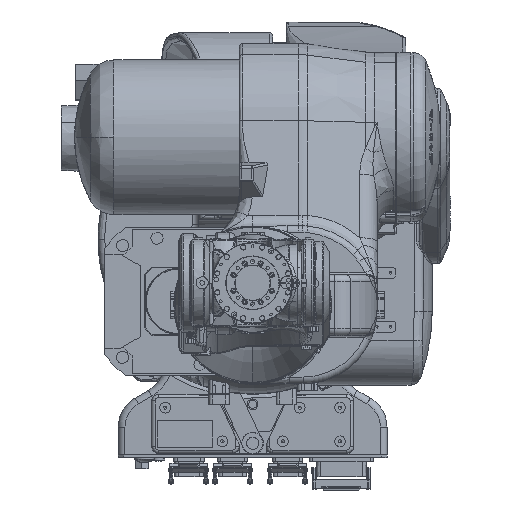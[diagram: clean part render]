
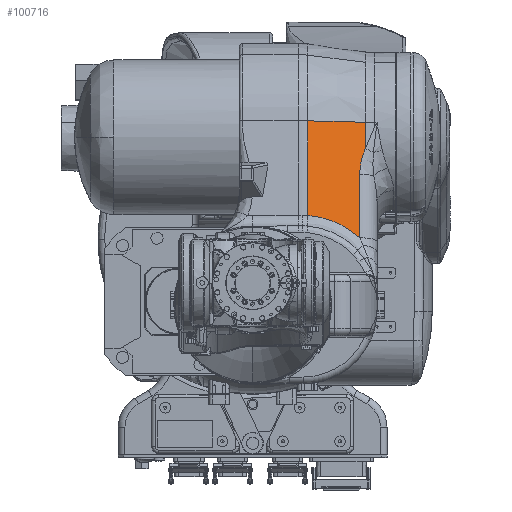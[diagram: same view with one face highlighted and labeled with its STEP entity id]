
A CAD part, top view. The second image highlights one B-rep face of the part: STEP entity #100716.
In plain terms, the highlighted planar face has unit normal (0.139, 0.172, 0.975).
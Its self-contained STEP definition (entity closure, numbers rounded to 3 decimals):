
#100646=CARTESIAN_POINT('Axis2P3D Location',(174.615,21.88,124.086)) ;
#100651=CARTESIAN_POINT('Line Origine',(167.691,2.492,128.493)) ;
#100655=CARTESIAN_POINT('Vertex',(167.691,-17.065,131.941)) ;
#100657=CARTESIAN_POINT('Vertex',(167.691,22.049,125.044)) ;
#100660=CARTESIAN_POINT('Line Origine',(124.808,23.095,130.979)) ;
#100664=CARTESIAN_POINT('Vertex',(81.925,24.142,136.915)) ;
#100667=CARTESIAN_POINT('Line Origine',(81.925,-46.33,149.341)) ;
#100671=CARTESIAN_POINT('Vertex',(81.925,-116.802,161.767)) ;
#100675=CARTESIAN_POINT('Control Point',(159.175,-149.805,156.562)) ;
#100676=CARTESIAN_POINT('Control Point',(153.376,-144.586,156.469)) ;
#100677=CARTESIAN_POINT('Control Point',(147.183,-139.801,156.509)) ;
#100678=CARTESIAN_POINT('Control Point',(140.644,-135.492,156.683)) ;
#100679=CARTESIAN_POINT('Control Point',(125.614,-127.135,157.354)) ;
#100680=CARTESIAN_POINT('Control Point',(109.437,-121.356,158.644)) ;
#100681=CARTESIAN_POINT('Control Point',(100.372,-119.012,159.524)) ;
#100682=CARTESIAN_POINT('Control Point',(91.168,-117.494,160.57)) ;
#100683=CARTESIAN_POINT('Control Point',(81.925,-116.802,161.767)) ;
#100684=CARTESIAN_POINT('Vertex',(159.175,-149.805,156.562)) ;
#100687=CARTESIAN_POINT('Line Origine',(159.175,-102.487,148.218)) ;
#100691=CARTESIAN_POINT('Vertex',(159.175,-55.17,139.875)) ;
#100695=CARTESIAN_POINT('Control Point',(167.691,-17.065,131.941)) ;
#100696=CARTESIAN_POINT('Control Point',(167.514,-17.472,132.038)) ;
#100697=CARTESIAN_POINT('Control Point',(167.34,-17.881,132.135)) ;
#100698=CARTESIAN_POINT('Control Point',(167.167,-18.291,132.232)) ;
#100699=CARTESIAN_POINT('Control Point',(165.989,-21.126,132.9)) ;
#100700=CARTESIAN_POINT('Control Point',(164.898,-24.022,133.566)) ;
#100701=CARTESIAN_POINT('Control Point',(164.031,-26.544,134.135)) ;
#100702=CARTESIAN_POINT('Control Point',(161.889,-33.446,135.657)) ;
#100703=CARTESIAN_POINT('Control Point',(160.313,-40.7,137.161)) ;
#100704=CARTESIAN_POINT('Control Point',(159.584,-45.392,138.093)) ;
#100705=CARTESIAN_POINT('Control Point',(159.175,-50.226,139.003)) ;
#100706=CARTESIAN_POINT('Control Point',(159.175,-55.17,139.875)) ;
#100647=DIRECTION('Axis2P3D Direction',(0.139,0.172,0.975)) ;
#100648=DIRECTION('Axis2P3D XDirection',(-0.99,0.024,0.137)) ;
#100652=DIRECTION('Vector Direction',(0.,-0.985,0.174)) ;
#100661=DIRECTION('Vector Direction',(-0.99,0.024,0.137)) ;
#100668=DIRECTION('Vector Direction',(0.,-0.985,0.174)) ;
#100688=DIRECTION('Vector Direction',(0.,0.985,-0.174)) ;
#100649=AXIS2_PLACEMENT_3D('Plane Axis2P3D',#100646,#100647,#100648) ;
#100709=ORIENTED_EDGE('',*,*,#100659,.T.) ;
#100710=ORIENTED_EDGE('',*,*,#100666,.T.) ;
#100711=ORIENTED_EDGE('',*,*,#100673,.T.) ;
#100712=ORIENTED_EDGE('',*,*,#100686,.T.) ;
#100713=ORIENTED_EDGE('',*,*,#100693,.F.) ;
#100714=ORIENTED_EDGE('',*,*,#100707,.F.) ;
#100653=VECTOR('Line Direction',#100652,1.) ;
#100662=VECTOR('Line Direction',#100661,1.) ;
#100669=VECTOR('Line Direction',#100668,1.) ;
#100689=VECTOR('Line Direction',#100688,1.) ;
#100716=ADVANCED_FACE('J3',(#100715),#100650,.T.) ;
#100674=B_SPLINE_CURVE_WITH_KNOTS('',5,(#100675,#100676,#100677,#100678,#100679,#100680,#100681,#100682,#100683),.UNSPECIFIED.,.F.,.U.,(6,3,6),(174.101,225.208,286.507),.UNSPECIFIED.) ;
#100694=B_SPLINE_CURVE_WITH_KNOTS('',5,(#100695,#100696,#100697,#100698,#100699,#100700,#100701,#100702,#100703,#100704,#100705,#100706),.UNSPECIFIED.,.F.,.U.,(6,3,3,6),(40.534,43.741,62.646,94.501),.UNSPECIFIED.) ;
#100659=EDGE_CURVE('',#100656,#100658,#100654,.F.) ;
#100666=EDGE_CURVE('',#100658,#100665,#100663,.T.) ;
#100673=EDGE_CURVE('',#100665,#100672,#100670,.T.) ;
#100686=EDGE_CURVE('',#100672,#100685,#100674,.F.) ;
#100693=EDGE_CURVE('',#100692,#100685,#100690,.F.) ;
#100707=EDGE_CURVE('',#100656,#100692,#100694,.T.) ;
#100708=EDGE_LOOP('',(#100709,#100710,#100711,#100712,#100713,#100714)) ;
#100715=FACE_OUTER_BOUND('',#100708,.T.) ;
#100654=LINE('Line',#100651,#100653) ;
#100663=LINE('Line',#100660,#100662) ;
#100670=LINE('Line',#100667,#100669) ;
#100690=LINE('Line',#100687,#100689) ;
#100650=PLANE('',#100649) ;
#100656=VERTEX_POINT('',#100655) ;
#100658=VERTEX_POINT('',#100657) ;
#100665=VERTEX_POINT('',#100664) ;
#100672=VERTEX_POINT('',#100671) ;
#100685=VERTEX_POINT('',#100684) ;
#100692=VERTEX_POINT('',#100691) ;
